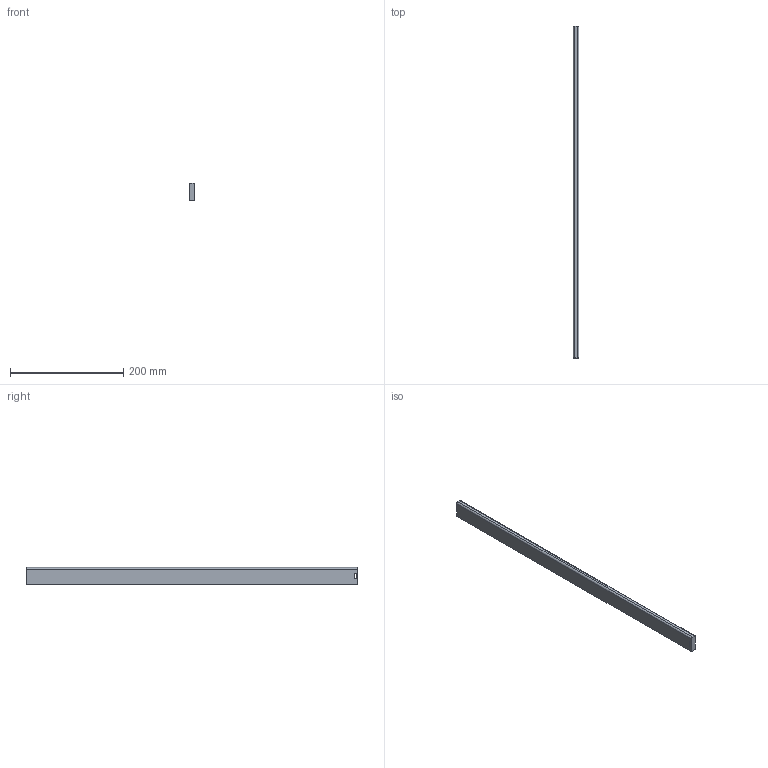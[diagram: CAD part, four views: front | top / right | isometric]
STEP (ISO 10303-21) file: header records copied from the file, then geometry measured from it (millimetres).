
FILE_DESCRIPTION (( 'STEP AP214' ), '1' );
FILE_NAME ('_Seitenreling_S760605500_RL585,5.step', '2010-09-06T14:51:29', ( 'grass' ), ( '' ), 'SwSTEP 2.0', 'SolidWorks 2010', '' );
FILE_SCHEMA (( 'AUTOMOTIVE_DESIGN' ));
Length unit declared in the file: millimetre
Products named in the file (1): _Seitenreling_S760605500_RL585,5
Bounding box: 10.5 x 585.5 x 30 mm (x, y, z)
Volume: 181932.1 mm3; surface area: 46752.1 mm2
Topology: 1 solids, 1 shells, 12 faces, 30 edges, 20 vertices
Faces by surface type: plane 8, cylinder 4
Entity records: 400 total; most frequent: DIRECTION 64, CARTESIAN_POINT 63, ORIENTED_EDGE 60, EDGE_CURVE 30, VECTOR 22, LINE 22, AXIS2_PLACEMENT_3D 21, VERTEX_POINT 20
